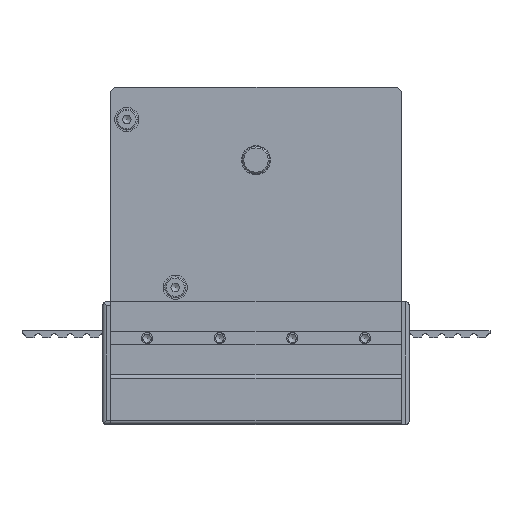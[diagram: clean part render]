
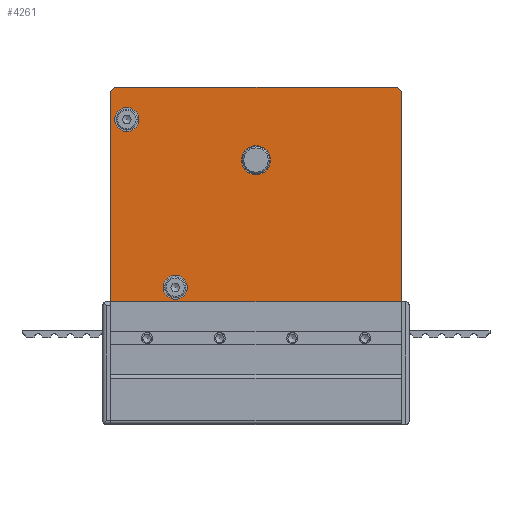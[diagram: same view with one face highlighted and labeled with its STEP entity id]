
A CAD part, top view. The second image highlights one B-rep face of the part: STEP entity #4261.
In plain terms, the highlighted planar face has unit normal (0, 0, 1) as drawn and (0, 0, -1) by its records, which use the part's own axes.
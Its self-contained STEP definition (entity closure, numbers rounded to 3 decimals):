
#3611=CARTESIAN_POINT('',(90.,1.5,-30.25));
#3612=VERTEX_POINT('',#3611);
#3619=CARTESIAN_POINT('',(90.0,164.0,-30.25));
#3620=VERTEX_POINT('',#3619);
#3621=CARTESIAN_POINT('',(90.,1.5,-30.25));
#3622=DIRECTION('',(0.0,1.0,0.0));
#3623=VECTOR('',#3622,162.5);
#3624=LINE('',#3621,#3623);
#3625=EDGE_CURVE('',#3612,#3620,#3624,.T.);
#3659=CARTESIAN_POINT('',(-90.0,164.0,-30.25));
#3660=VERTEX_POINT('',#3659);
#3667=CARTESIAN_POINT('',(-90.,1.5,-30.25));
#3668=VERTEX_POINT('',#3667);
#3669=CARTESIAN_POINT('',(-90.0,164.0,-30.25));
#3670=DIRECTION('',(0.0,-1.0,0.0));
#3671=VECTOR('',#3670,162.5);
#3672=LINE('',#3669,#3671);
#3673=EDGE_CURVE('',#3660,#3668,#3672,.T.);
#3700=CARTESIAN_POINT('',(-90.,1.5,-30.25));
#3701=DIRECTION('',(1.0,0.0,0.0));
#3702=VECTOR('',#3701,180.);
#3703=LINE('',#3700,#3702);
#3704=EDGE_CURVE('',#3668,#3612,#3703,.T.);
#3808=CARTESIAN_POINT('',(9.,121.3,-30.25));
#3809=VERTEX_POINT('',#3808);
#3810=CARTESIAN_POINT('',(0.,121.3,-30.25));
#3811=DIRECTION('',(0.0,0.0,1.0));
#3812=DIRECTION('',(-1.0,0.0,0.0));
#3813=AXIS2_PLACEMENT_3D('',#3810,#3811,#3812);
#3814=CIRCLE('',#3813,9.0);
#3815=EDGE_CURVE('',#3809,#3809,#3814,.T.);
#3866=CARTESIAN_POINT('',(-87.5,166.5,-30.25));
#3867=VERTEX_POINT('',#3866);
#3868=CARTESIAN_POINT('',(-87.5,166.5,-30.25));
#3869=DIRECTION('',(-0.707,-0.707,0.0));
#3870=VECTOR('',#3869,3.536);
#3871=LINE('',#3868,#3870);
#3872=EDGE_CURVE('',#3867,#3660,#3871,.T.);
#3906=CARTESIAN_POINT('',(87.5,166.5,-30.25));
#3907=VERTEX_POINT('',#3906);
#3914=CARTESIAN_POINT('',(87.5,166.5,-30.25));
#3915=DIRECTION('',(-1.0,0.0,0.0));
#3916=VECTOR('',#3915,175.0);
#3917=LINE('',#3914,#3916);
#3918=EDGE_CURVE('',#3907,#3867,#3917,.T.);
#3973=CARTESIAN_POINT('',(90.0,164.0,-30.25));
#3974=DIRECTION('',(-0.707,0.707,0.0));
#3975=VECTOR('',#3974,3.536);
#3976=LINE('',#3973,#3975);
#3977=EDGE_CURVE('',#3620,#3907,#3976,.T.);
#4011=CARTESIAN_POINT('',(42.5,42.5,-30.25));
#4012=VERTEX_POINT('',#4011);
#4013=CARTESIAN_POINT('',(50.,42.5,-30.25));
#4014=DIRECTION('',(0.0,0.0,1.0));
#4015=DIRECTION('',(-1.0,0.0,0.0));
#4016=AXIS2_PLACEMENT_3D('',#4013,#4014,#4015);
#4017=CIRCLE('',#4016,7.5);
#4018=EDGE_CURVE('',#4012,#4012,#4017,.T.);
#4080=CARTESIAN_POINT('',(72.5,146.5,-30.25));
#4081=VERTEX_POINT('',#4080);
#4082=CARTESIAN_POINT('',(80.,146.5,-30.25));
#4083=DIRECTION('',(0.0,0.0,1.0));
#4084=DIRECTION('',(-1.0,0.0,0.0));
#4085=AXIS2_PLACEMENT_3D('',#4082,#4083,#4084);
#4086=CIRCLE('',#4085,7.5);
#4087=EDGE_CURVE('',#4081,#4081,#4086,.T.);
#4155=CARTESIAN_POINT('',(71.5,11.0,-30.25));
#4156=VERTEX_POINT('',#4155);
#4157=CARTESIAN_POINT('',(67.5,11.0,-30.25));
#4158=DIRECTION('',(0.0,0.0,1.0));
#4159=DIRECTION('',(-1.0,0.0,0.0));
#4160=AXIS2_PLACEMENT_3D('',#4157,#4158,#4159);
#4161=CIRCLE('',#4160,4.0);
#4162=EDGE_CURVE('',#4156,#4156,#4161,.T.);
#4172=CARTESIAN_POINT('',(26.5,11.0,-30.25));
#4173=VERTEX_POINT('',#4172);
#4174=CARTESIAN_POINT('',(22.5,11.0,-30.25));
#4175=DIRECTION('',(0.0,0.0,1.0));
#4176=DIRECTION('',(-1.0,0.0,0.0));
#4177=AXIS2_PLACEMENT_3D('',#4174,#4175,#4176);
#4178=CIRCLE('',#4177,4.0);
#4179=EDGE_CURVE('',#4173,#4173,#4178,.T.);
#4192=CARTESIAN_POINT('',(-18.5,11.0,-30.25));
#4193=VERTEX_POINT('',#4192);
#4194=CARTESIAN_POINT('',(-22.5,11.0,-30.25));
#4195=DIRECTION('',(0.0,0.0,1.0));
#4196=DIRECTION('',(-1.0,0.0,0.0));
#4197=AXIS2_PLACEMENT_3D('',#4194,#4195,#4196);
#4198=CIRCLE('',#4197,4.0);
#4199=EDGE_CURVE('',#4193,#4193,#4198,.T.);
#4215=CARTESIAN_POINT('',(-63.5,11.0,-30.25));
#4216=VERTEX_POINT('',#4215);
#4217=CARTESIAN_POINT('',(-67.5,11.0,-30.25));
#4218=DIRECTION('',(0.0,0.0,1.0));
#4219=DIRECTION('',(-1.0,0.0,0.0));
#4220=AXIS2_PLACEMENT_3D('',#4217,#4218,#4219);
#4221=CIRCLE('',#4220,4.0);
#4222=EDGE_CURVE('',#4216,#4216,#4221,.T.);
#4227=CARTESIAN_POINT('',(0.,84.,-30.25));
#4228=DIRECTION('',(0.0,0.0,1.0));
#4229=DIRECTION('',(1.0,0.0,0.0));
#4230=AXIS2_PLACEMENT_3D('',#4227,#4228,#4229);
#4231=PLANE('',#4230);
#4232=ORIENTED_EDGE('',*,*,#3872,.F.);
#4233=ORIENTED_EDGE('',*,*,#3918,.F.);
#4234=ORIENTED_EDGE('',*,*,#3977,.F.);
#4235=ORIENTED_EDGE('',*,*,#3625,.F.);
#4236=ORIENTED_EDGE('',*,*,#3704,.F.);
#4237=ORIENTED_EDGE('',*,*,#3673,.F.);
#4238=EDGE_LOOP('',(#4232,#4233,#4234,#4235,#4236,#4237));
#4239=FACE_OUTER_BOUND('',#4238,.T.);
#4240=ORIENTED_EDGE('',*,*,#3815,.T.);
#4241=EDGE_LOOP('',(#4240));
#4242=FACE_BOUND('',#4241,.T.);
#4243=ORIENTED_EDGE('',*,*,#4018,.T.);
#4244=EDGE_LOOP('',(#4243));
#4245=FACE_BOUND('',#4244,.T.);
#4246=ORIENTED_EDGE('',*,*,#4087,.T.);
#4247=EDGE_LOOP('',(#4246));
#4248=FACE_BOUND('',#4247,.T.);
#4249=ORIENTED_EDGE('',*,*,#4162,.T.);
#4250=EDGE_LOOP('',(#4249));
#4251=FACE_BOUND('',#4250,.T.);
#4252=ORIENTED_EDGE('',*,*,#4179,.T.);
#4253=EDGE_LOOP('',(#4252));
#4254=FACE_BOUND('',#4253,.T.);
#4255=ORIENTED_EDGE('',*,*,#4199,.T.);
#4256=EDGE_LOOP('',(#4255));
#4257=FACE_BOUND('',#4256,.T.);
#4258=ORIENTED_EDGE('',*,*,#4222,.T.);
#4259=EDGE_LOOP('',(#4258));
#4260=FACE_BOUND('',#4259,.T.);
#4261=ADVANCED_FACE('',(#4239,#4242,#4245,#4248,#4251,#4254,#4257,#4260),#4231,.F.);
